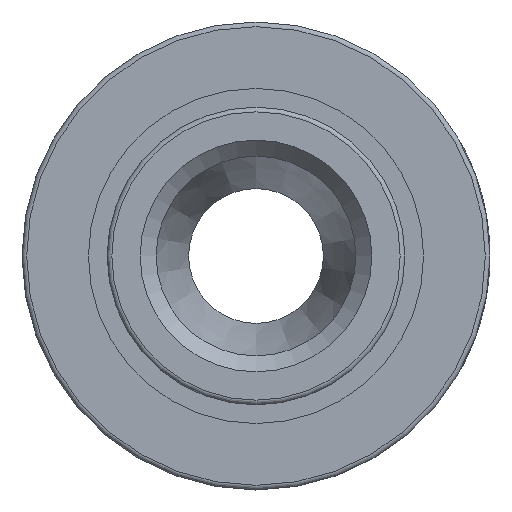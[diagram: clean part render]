
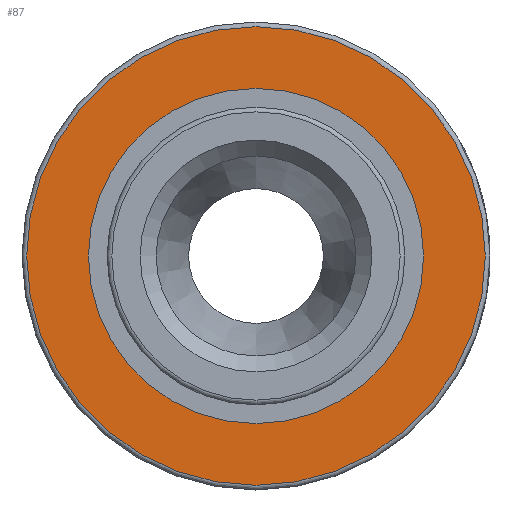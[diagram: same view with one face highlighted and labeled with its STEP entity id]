
A CAD part, left-side view. The second image highlights one B-rep face of the part: STEP entity #87.
In plain terms, the highlighted planar face has unit normal (-1, 0, 0).
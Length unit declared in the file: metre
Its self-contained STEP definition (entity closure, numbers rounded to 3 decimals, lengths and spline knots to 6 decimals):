
#87 = ADVANCED_FACE( '', ( #140, #141 ), #142, .F. );
#140 = FACE_BOUND( '', #220, .T. );
#141 = FACE_OUTER_BOUND( '', #221, .T. );
#142 = PLANE( '', #222 );
#220 = EDGE_LOOP( '', ( #324 ) );
#221 = EDGE_LOOP( '', ( #325 ) );
#222 = AXIS2_PLACEMENT_3D( '', #326, #327, #328 );
#324 = ORIENTED_EDGE( '', *, *, #409, .F. );
#325 = ORIENTED_EDGE( '', *, *, #410, .T. );
#326 = CARTESIAN_POINT( '', ( 0.0066, 0., 0.0245 ) );
#327 = DIRECTION( '', ( 1., 0., 0. ) );
#328 = DIRECTION( '', ( 0., 0., -1. ) );
#409 = EDGE_CURVE( '', #451, #451, #452, .T. );
#410 = EDGE_CURVE( '', #453, #453, #454, .T. );
#451 = VERTEX_POINT( '', #695 );
#452 = CIRCLE( '', #696, 0.0179 );
#453 = VERTEX_POINT( '', #697 );
#454 = CIRCLE( '', #698, 0.0245 );
#695 = CARTESIAN_POINT( '', ( 0.0066, 0., 0.0179 ) );
#696 = AXIS2_PLACEMENT_3D( '', #758, #759, #760 );
#697 = CARTESIAN_POINT( '', ( 0.0066, 0., 0.0245 ) );
#698 = AXIS2_PLACEMENT_3D( '', #761, #762, #763 );
#758 = CARTESIAN_POINT( '', ( 0.0066, 0., 0. ) );
#759 = DIRECTION( '', ( -1., 0., 0. ) );
#760 = DIRECTION( '', ( 0., 0., 1. ) );
#761 = CARTESIAN_POINT( '', ( 0.0066, 0., 0. ) );
#762 = DIRECTION( '', ( -1., 0., 0. ) );
#763 = DIRECTION( '', ( 0., 0., 1. ) );
